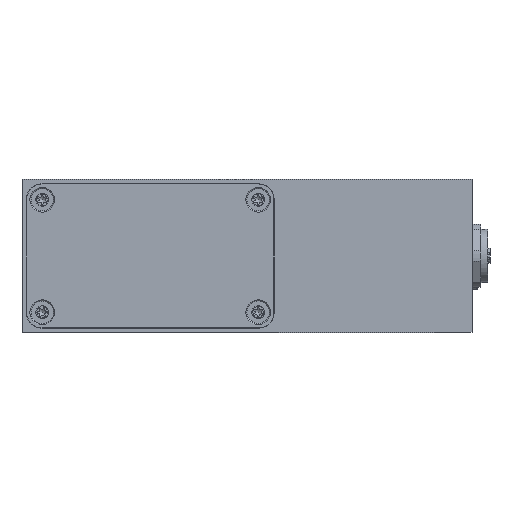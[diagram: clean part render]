
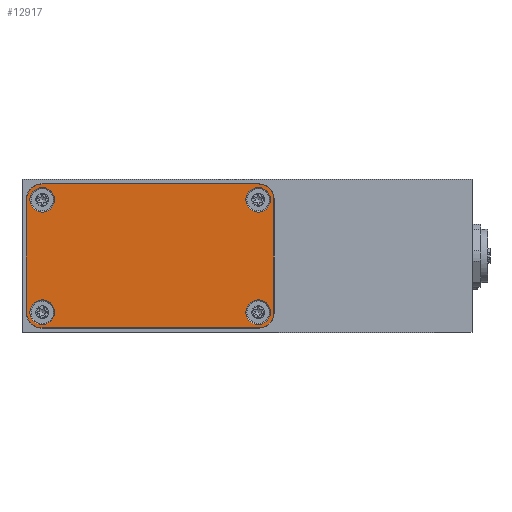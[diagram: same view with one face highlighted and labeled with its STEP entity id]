
A CAD part, front view. The second image highlights one B-rep face of the part: STEP entity #12917.
In plain terms, the highlighted planar face has unit normal (0, -1, 0).
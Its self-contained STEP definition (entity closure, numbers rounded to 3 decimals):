
#620=FACE_BOUND($,#3856,.T.);
#621=FACE_BOUND($,#3857,.T.);
#622=FACE_BOUND($,#3858,.T.);
#623=FACE_BOUND($,#3859,.T.);
#624=FACE_BOUND($,#3860,.T.);
#1227=LINE($,#23227,#2008);
#1234=LINE($,#23247,#2015);
#1238=LINE($,#23259,#2019);
#1242=LINE($,#23271,#2023);
#2008=VECTOR($,#16217,48.);
#2015=VECTOR($,#16234,25.);
#2019=VECTOR($,#16246,48.);
#2023=VECTOR($,#16258,25.);
#3856=EDGE_LOOP($,(#9863));
#3857=EDGE_LOOP($,(#9864));
#3858=EDGE_LOOP($,(#9865));
#3859=EDGE_LOOP($,(#9866));
#3860=EDGE_LOOP($,(#9867,#9868,#9869,#9870,#9871,#9872,#9873,#9874));
#4630=CIRCLE($,#13883,2.75);
#4633=CIRCLE($,#13888,2.75);
#4636=CIRCLE($,#13893,2.75);
#4639=CIRCLE($,#13898,2.75);
#4643=CIRCLE($,#13905,3.5);
#4646=CIRCLE($,#13910,3.5);
#4648=CIRCLE($,#13914,3.5);
#4649=CIRCLE($,#13917,3.5);
#5639=VERTEX_POINT($,#23193);
#5642=VERTEX_POINT($,#23201);
#5645=VERTEX_POINT($,#23209);
#5648=VERTEX_POINT($,#23217);
#5651=VERTEX_POINT($,#23225);
#5652=VERTEX_POINT($,#23226);
#5657=VERTEX_POINT($,#23238);
#5660=VERTEX_POINT($,#23246);
#5662=VERTEX_POINT($,#23252);
#5664=VERTEX_POINT($,#23258);
#5666=VERTEX_POINT($,#23264);
#5668=VERTEX_POINT($,#23270);
#7167=EDGE_CURVE($,#5639,#5639,#4630,.T.);
#7170=EDGE_CURVE($,#5642,#5642,#4633,.T.);
#7173=EDGE_CURVE($,#5645,#5645,#4636,.T.);
#7176=EDGE_CURVE($,#5648,#5648,#4639,.T.);
#7179=EDGE_CURVE($,#5651,#5652,#1227,.T.);
#7185=EDGE_CURVE($,#5652,#5657,#4643,.T.);
#7189=EDGE_CURVE($,#5657,#5660,#1234,.T.);
#7192=EDGE_CURVE($,#5660,#5662,#4646,.T.);
#7195=EDGE_CURVE($,#5662,#5664,#1238,.T.);
#7198=EDGE_CURVE($,#5664,#5666,#4648,.T.);
#7201=EDGE_CURVE($,#5666,#5668,#1242,.T.);
#7203=EDGE_CURVE($,#5668,#5651,#4649,.T.);
#9863=ORIENTED_EDGE($,*,*,#7167,.T.);
#9864=ORIENTED_EDGE($,*,*,#7170,.T.);
#9865=ORIENTED_EDGE($,*,*,#7173,.T.);
#9866=ORIENTED_EDGE($,*,*,#7176,.T.);
#9867=ORIENTED_EDGE($,*,*,#7179,.F.);
#9868=ORIENTED_EDGE($,*,*,#7203,.F.);
#9869=ORIENTED_EDGE($,*,*,#7201,.F.);
#9870=ORIENTED_EDGE($,*,*,#7198,.F.);
#9871=ORIENTED_EDGE($,*,*,#7195,.F.);
#9872=ORIENTED_EDGE($,*,*,#7192,.F.);
#9873=ORIENTED_EDGE($,*,*,#7189,.F.);
#9874=ORIENTED_EDGE($,*,*,#7185,.F.);
#11664=PLANE($,#13916);
#12917=ADVANCED_FACE($,(#620,#621,#622,#623,#624),#11664,.T.);
#13883=AXIS2_PLACEMENT_3D($,#23194,#16177,#16178);
#13888=AXIS2_PLACEMENT_3D($,#23202,#16187,#16188);
#13893=AXIS2_PLACEMENT_3D($,#23210,#16197,#16198);
#13898=AXIS2_PLACEMENT_3D($,#23218,#16207,#16208);
#13905=AXIS2_PLACEMENT_3D($,#23239,#16226,#16227);
#13910=AXIS2_PLACEMENT_3D($,#23253,#16240,#16241);
#13914=AXIS2_PLACEMENT_3D($,#23265,#16252,#16253);
#13916=AXIS2_PLACEMENT_3D($,#23273,#16260,#16261);
#13917=AXIS2_PLACEMENT_3D($,#23274,#16262,#16263);
#16177=DIRECTION('center_axis',(0.,1.,0.));
#16178=DIRECTION('ref_axis',(1.,0.,0.));
#16187=DIRECTION('center_axis',(0.,1.,0.));
#16188=DIRECTION('ref_axis',(1.,0.,0.));
#16197=DIRECTION('center_axis',(0.,1.,0.));
#16198=DIRECTION('ref_axis',(1.,0.,0.));
#16207=DIRECTION('center_axis',(0.,1.,0.));
#16208=DIRECTION('ref_axis',(1.,0.,0.));
#16217=DIRECTION($,(1.,0.,0.));
#16226=DIRECTION('center_axis',(0.,1.,0.));
#16227=DIRECTION('ref_axis',(-1.,0.,0.));
#16234=DIRECTION($,(0.,0.,-1.));
#16240=DIRECTION('center_axis',(0.,1.,0.));
#16241=DIRECTION('ref_axis',(0.,0.,1.));
#16246=DIRECTION($,(-1.,0.,0.));
#16252=DIRECTION('center_axis',(0.,1.,0.));
#16253=DIRECTION('ref_axis',(1.,0.,0.));
#16258=DIRECTION($,(0.,0.,1.));
#16260=DIRECTION('center_axis',(0.,-1.,0.));
#16261=DIRECTION('ref_axis',(1.,0.,0.));
#16262=DIRECTION('center_axis',(0.,1.,0.));
#16263=DIRECTION('ref_axis',(0.,0.,-1.));
#23193=CARTESIAN_POINT('',(5.25,-174.9,4.5));
#23194=CARTESIAN_POINT('Origin',(2.5,-174.9,4.5));
#23201=CARTESIAN_POINT('',(-42.75,-174.9,29.5));
#23202=CARTESIAN_POINT('Origin',(-45.5,-174.9,29.5));
#23209=CARTESIAN_POINT('',(-42.75,-174.9,4.5));
#23210=CARTESIAN_POINT('Origin',(-45.5,-174.9,4.5));
#23217=CARTESIAN_POINT('',(5.25,-174.9,29.5));
#23218=CARTESIAN_POINT('Origin',(2.5,-174.9,29.5));
#23225=CARTESIAN_POINT('',(-45.5,-174.9,33.));
#23226=CARTESIAN_POINT('',(2.5,-174.9,33.));
#23227=CARTESIAN_POINT($,(-45.5,-174.9,33.));
#23238=CARTESIAN_POINT('',(6.,-174.9,29.5));
#23239=CARTESIAN_POINT('Origin',(2.5,-174.9,29.5));
#23246=CARTESIAN_POINT('',(6.,-174.9,4.5));
#23247=CARTESIAN_POINT($,(6.,-174.9,29.5));
#23252=CARTESIAN_POINT('',(2.5,-174.9,1.));
#23253=CARTESIAN_POINT('Origin',(2.5,-174.9,4.5));
#23258=CARTESIAN_POINT('',(-45.5,-174.9,1.));
#23259=CARTESIAN_POINT($,(2.5,-174.9,1.));
#23264=CARTESIAN_POINT('',(-49.,-174.9,4.5));
#23265=CARTESIAN_POINT('Origin',(-45.5,-174.9,4.5));
#23270=CARTESIAN_POINT('',(-49.,-174.9,29.5));
#23271=CARTESIAN_POINT($,(-49.,-174.9,4.5));
#23273=CARTESIAN_POINT('Origin',(-21.5,-174.9,17.));
#23274=CARTESIAN_POINT('Origin',(-45.5,-174.9,29.5));
